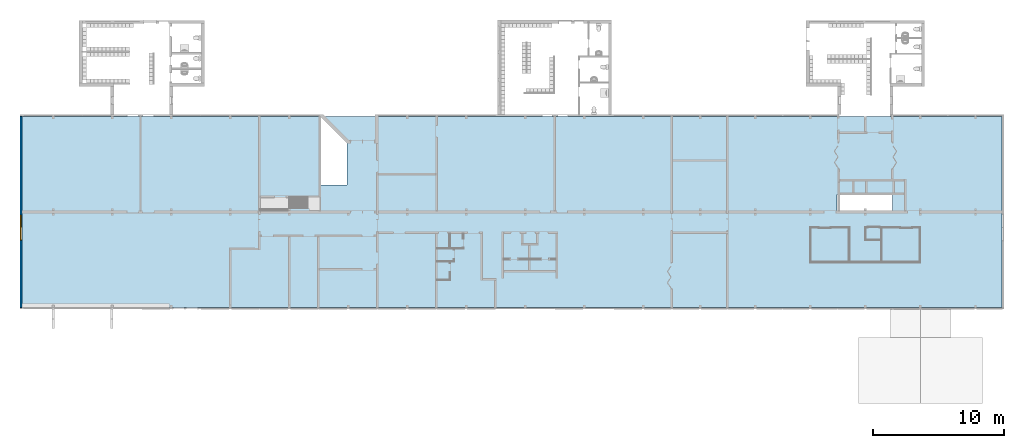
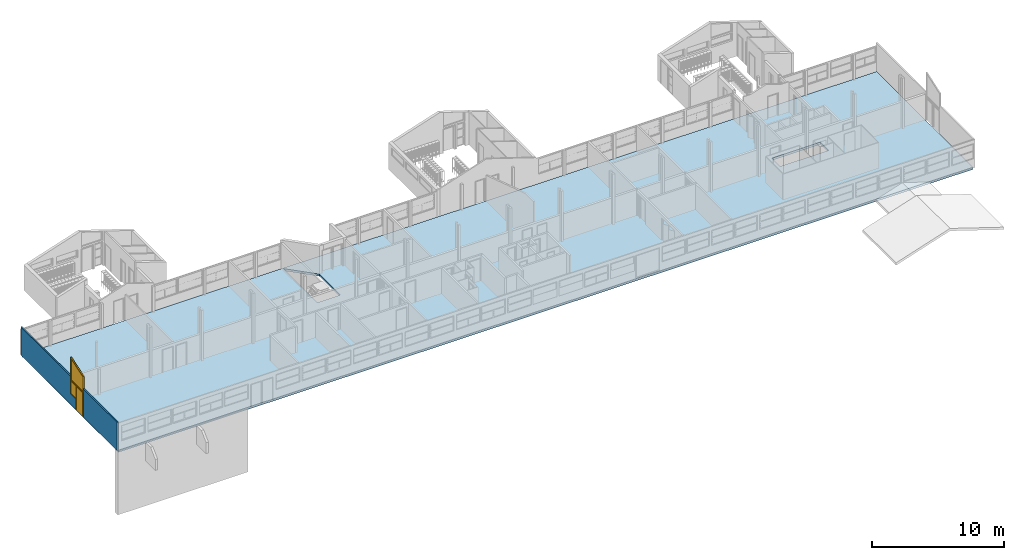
# One storey, part 8 of 48: 2 windows, 1 door, 1 slab, 1 wall, 3 openings.
"""IFC2X3 building model written with IfcOpenShell, lengths in millimetres."""

from ifc_helpers import new_model, entity, si_unit, converted_unit, derived_unit, money_unit, direction, frame, origin_with_axes, place, context, subcontext, project, spatial, open_shell, faceted_brep, surface_model, source, transform, mapped, material, type_object, element, fill, save


model = new_model("IFC2X3")

# Units and contexts
model_context = context("Model", 3, precision=0.01, world=origin_with_axes(), true_north=direction((0.0, 1.0)))
body_context = subcontext(model_context, "Body", "Model", "MODEL_VIEW")
ifc_project = project(units=[si_unit("LENGTHUNIT", "METRE", prefix="MILLI"), si_unit("AREAUNIT", "SQUARE_METRE"), si_unit("VOLUMEUNIT", "CUBIC_METRE"), converted_unit("PLANEANGLEUNIT", "DEGREE", entity("IfcPlaneAngleMeasure", 0.0174532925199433), si_unit("PLANEANGLEUNIT", "RADIAN"), dimensions=[0, 0, 0, 0, 0, 0, 0]), money_unit("USD"), converted_unit("TIMEUNIT", "Year", entity("IfcTimeMeasure", 31557600.0), si_unit("TIMEUNIT", "SECOND"), dimensions=[0, 0, 1, 0, 0, 0, 0]), si_unit("MASSUNIT", "GRAM", prefix="KILO"), si_unit("THERMODYNAMICTEMPERATUREUNIT", "DEGREE_CELSIUS"), si_unit("LUMINOUSINTENSITYUNIT", "LUMEN"), si_unit("ENERGYUNIT", "JOULE", prefix="MEGA"), derived_unit("THERMALCONDUCTANCEUNIT", [(si_unit("POWERUNIT", "WATT"), 1), (si_unit("LENGTHUNIT", "METRE"), -1), (si_unit("THERMODYNAMICTEMPERATUREUNIT", "KELVIN"), -1)]), derived_unit("SPECIFICHEATCAPACITYUNIT", [(si_unit("ENERGYUNIT", "JOULE"), 1), (si_unit("MASSUNIT", "GRAM", prefix="KILO"), -1), (si_unit("THERMODYNAMICTEMPERATUREUNIT", "KELVIN"), -1)]), derived_unit("MASSDENSITYUNIT", [(si_unit("MASSUNIT", "GRAM", prefix="KILO"), 1), (si_unit("VOLUMEUNIT", "CUBIC_METRE"), -1)])], contexts=[model_context])

# Site, building, storey
site_placement = place(None, origin_with_axes())
site = spatial("IfcSite", under=ifc_project, at=site_placement, Name="Site", CompositionType="ELEMENT")
building_placement = place(site_placement, origin_with_axes())
building = spatial("IfcBuilding", under=site, at=building_placement, Name="Building", CompositionType="ELEMENT")
storey_placement = place(building_placement, frame((0.0, 0.0, 3300.0), z_axis=(0.0, 0.0, 1.0), x_axis=(1.0, 0.0, 0.0)))
storey = spatial("IfcBuildingStorey", under=building, at=storey_placement, Name="1 ETG", CompositionType="ELEMENT", Elevation=3300.0)

# Slab
ifc_material_1 = material(Name="Stone - Structural")
slab_type = type_object("IfcSlabType", Name="Stone - Structural 200", PredefinedType="NOTDEFINED")
slab_placement = place(storey_placement, frame((-2400.26057248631, 21800.0005009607, 0.0), z_axis=(0.0, 0.0, 1.0), x_axis=(1.0, 0.0, 0.0)))
element("IfcSlab", 1, at=slab_placement, inside=storey, type_object=slab_type, material=ifc_material_1, Name="SLA - 001", PredefinedType="NOTDEFINED", context=body_context, shape_type="Brep", body=[
    faceted_brep([(0.0, 0.0, 0.0), (0.0, 0.0, -200.0000000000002), (0.0, -14600.12552457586, -200.0000000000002), (0.0, -14600.12552457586, 0.0), (74790.2605724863, 0.0, 0.0), (74790.2605724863, 0.0, -200.0000000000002), (74790.2605724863, -14600.12552457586, -200.0000000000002), (22818.41390390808, -5253.331693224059, -200.0000000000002), (24818.41390390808, -5253.331693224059, -200.0000000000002), (24818.41390390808, -2061.365899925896, -200.0000000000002), (23671.99106851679, -919.4712098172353, -200.0000000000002), (22818.41390390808, -61.36589992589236, -200.0000000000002), (66425.36598292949, -7200.125524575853, -200.0000000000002), (66425.36598292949, -5950.125524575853, -200.0000000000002), (62175.36598292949, -5950.125524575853, -200.0000000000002), (62175.36598292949, -7200.125524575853, -200.0000000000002), (74790.2605724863, -14600.12552457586, 0.0), (24818.41390390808, -5253.331693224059, 0.0), (22818.41390390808, -5253.331693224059, 0.0), (22818.41390390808, -61.36589992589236, 0.0), (23671.99106851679, -919.4712098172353, 0.0), (24818.41390390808, -2061.365899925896, 0.0), (62175.36598292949, -5950.125524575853, 0.0), (66425.36598292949, -5950.125524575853, 0.0), (66425.36598292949, -7200.125524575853, 0.0), (62175.36598292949, -7200.125524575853, 0.0)], [[[0, 1, 2, 3]], [[4, 5, 1, 0]], [[2, 1, 5, 6], [7, 8, 9, 10, 11], [12, 13, 14, 15]], [[3, 2, 6, 16]], [[4, 0, 3, 16], [17, 18, 19, 20, 21], [22, 23, 24, 25]], [[16, 6, 5, 4]], [[17, 8, 7, 18]], [[21, 9, 8, 17]], [[20, 10, 9, 21]], [[19, 11, 10, 20]], [[18, 7, 11, 19]], [[23, 13, 12, 24]], [[22, 14, 13, 23]], [[25, 15, 14, 22]], [[24, 12, 15, 25]]]),
])

# Wall, openings, windows, door
ifc_material_2 = material(Name="GENERIC - STRUCTURAL")
wall_type = type_object("IfcWallType", Name="GENERIC - STRUCTURAL 120", PredefinedType="NOTDEFINED")
wall_placement = place(storey_placement, frame((-2400.26057248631, 21800.0005009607, 0.0), z_axis=(0.0, 0.0, 1.0), x_axis=(0.0, -1.0, 0.0)))
wall = element("IfcWall", 2, at=wall_placement, inside=storey, type_object=wall_type, material=ifc_material_2, Name="SW - 001", context=body_context, shape_type="Brep", body=[
    faceted_brep([(9432.19798324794, 0.0, 0.0), (9432.19798324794, 0.0, 2229.71220870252), (9467.615796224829, 0.0, 2229.71220870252), (9467.615796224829, 0.0, 2600.0), (14600.25802016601, 0.0, 2600.0), (14600.25802016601, 0.0, 0.0), (9432.19798324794, -120.0000000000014, 2229.71220870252), (9432.19798324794, -120.0000000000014, 0.0), (9467.615796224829, -120.0000000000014, 2229.71220870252), (9467.615796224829, -120.000000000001, 2600.0), (14600.25823241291, -120.0000000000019, 2600.0), (14600.25823241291, -120.0000000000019, 0.0)], [[[0, 1, 2, 3, 4, 5]], [[6, 1, 0, 7]], [[1, 6, 8, 2]], [[3, 2, 8, 9]], [[9, 10, 4, 3]], [[10, 11, 5, 4]], [[7, 0, 5, 11]], [[6, 7, 11, 10, 9, 8]]]),
    faceted_brep([(8432.19798324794, -120.000000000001, 965.0187491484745), (8432.19798324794, 0.0, 965.0187491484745), (7532.382365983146, 0.0, 965.0187491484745), (7532.382365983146, -120.000000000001, 965.0187491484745), (8432.19798324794, 0.0, 0.0), (8432.19798324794, -120.000000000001, 0.0), (0.0002003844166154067, 0.0, 0.0), (0.0002003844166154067, 0.0, 2600.0), (7532.382365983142, 0.0, 2600.0), (7532.382365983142, -120.000000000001, 2600.0), (0.0, -119.9999999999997, 2600.0), (0.0, -120.0000000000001, 0.0)], [[[0, 1, 2, 3]], [[4, 1, 0, 5]], [[1, 4, 6, 7, 8, 2]], [[9, 3, 2, 8]], [[5, 0, 3, 9, 10, 11]], [[4, 5, 11, 6]], [[10, 7, 6, 11]], [[8, 7, 10, 9]]]),
])
opening_1_placement = place(wall_placement, frame((7982.290174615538, 0.0, 965.0187491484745), z_axis=(0.0, 0.0, 1.0), x_axis=(1.0, 0.0, 0.0)))
opening_1 = element("IfcOpeningElement", 3, at=opening_1_placement, cuts=wall, Name="WD - 001", context=body_context, shape_type="Brep", body=[
    faceted_brep([(449.9078086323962, 1.000000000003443, 1264.693459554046), (449.9078086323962, 1.000000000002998, 0.0), (-449.9078086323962, 1.000000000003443, 0.0), (-449.9078086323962, 1.000000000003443, 1264.693459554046), (449.9078086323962, -121.0000000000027, 1264.693459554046), (449.9078086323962, -121.0000000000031, 0.0), (-449.9078086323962, -121.0000000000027, 0.0), (-449.9078086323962, -121.0000000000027, 1264.693459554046)], [[[0, 1, 2, 3]], [[4, 5, 1, 0]], [[5, 6, 2, 1]], [[6, 7, 3, 2]], [[7, 4, 0, 3]], [[6, 5, 4, 7]]]),
])
opening_2_placement = place(wall_placement, frame((8499.999081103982, 0.0, 2229.71220870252), z_axis=(0.0, 0.0, 1.0), x_axis=(1.0, 0.0, 0.0)))
opening_2 = element("IfcOpeningElement", 4, at=opening_2_placement, cuts=wall, Name="WD - 001", context=body_context, shape_type="Brep", body=[
    faceted_brep([(967.6167151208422, 1.000000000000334, 1500.0), (967.6167151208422, 1.000000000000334, 0.0), (-967.6167151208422, 1.000000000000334, 0.0), (-967.6167151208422, 1.000000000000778, 2130.718093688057), (967.6167151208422, -121.0, 1500.0), (967.6167151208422, -121.0, 0.0), (-967.6167151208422, -121.0, 0.0), (-967.6167151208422, -120.9999999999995, 2130.718093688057)], [[[0, 1, 2, 3]], [[4, 5, 1, 0]], [[5, 6, 2, 1]], [[6, 7, 3, 2]], [[7, 4, 0, 3]], [[6, 5, 4, 7]]]),
])
opening_3_placement = place(wall_placement, frame((8932.197983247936, 0.0, 0.0), z_axis=(0.0, 0.0, 1.0), x_axis=(1.0, 0.0, 0.0)))
opening_3 = element("IfcOpeningElement", 5, at=opening_3_placement, cuts=wall, Name="DOO - 002", context=body_context, shape_type="Brep", body=[
    faceted_brep([(-500.0, 1.00000000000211, 0.0), (-500.0, 1.00000000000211, 2229.71220870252), (500.0, 1.000000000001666, 2229.71220870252), (500.0, 1.000000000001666, 0.0), (-537.0000000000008, 1.00000000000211, 0.0), (-537.0000000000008, 1.00000000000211, 2266.71220870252), (537.0000000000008, 1.000000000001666, 2266.71220870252), (537.0000000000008, 1.000000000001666, 0.0), (-500.0, 0.0, 0.0), (500.0, 0.0, 0.0), (500.0, -120.0000000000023, 0.0), (500.0, -121.0000000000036, 0.0), (-500.0, -121.0000000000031, 0.0), (-500.0, -120.0000000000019, 0.0), (-537.0000000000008, 0.0, 0.0), (-537.0000000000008, 0.0, 2266.71220870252), (537.0000000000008, 0.0, 2266.71220870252), (537.0000000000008, 0.0, 0.0), (500.0, 0.0, 2229.71220870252), (500.0, -120.0000000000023, 2229.71220870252), (537.0000000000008, -120.0000000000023, 0.0), (537.0000000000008, -121.0000000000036, 0.0), (537.0000000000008, -121.0000000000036, 2266.71220870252), (-537.0000000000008, -121.0000000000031, 2266.71220870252), (-537.0000000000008, -121.0000000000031, 0.0), (-537.0000000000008, -120.0000000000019, 0.0), (-500.0, 0.0, 2229.71220870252), (-500.0, -120.0000000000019, 2229.71220870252), (-537.0000000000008, -120.0000000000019, 2266.71220870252), (537.0000000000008, -120.0000000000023, 2266.71220870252)], [[[0, 1, 2, 3]], [[2, 1, 0, 4, 5, 6, 7, 3]], [[8, 0, 3, 9, 10, 11, 12, 13]], [[0, 8, 14, 4]], [[14, 15, 5, 4]], [[15, 16, 6, 5]], [[16, 17, 7, 6]], [[9, 3, 7, 17]], [[9, 18, 19, 10]], [[11, 10, 20, 21]], [[12, 11, 21, 22, 23, 24]], [[13, 12, 24, 25]], [[26, 8, 13, 27]], [[8, 26, 18, 9, 17, 16, 15, 14]], [[18, 26, 27, 19]], [[19, 27, 13, 25, 28, 29, 20, 10]], [[20, 29, 22, 21]], [[29, 28, 23, 22]], [[28, 25, 24, 23]]]),
])
window_style_1 = type_object("IfcWindowStyle", Name="Vindu med skrå topp", ConstructionType="NOTDEFINED", OperationType="USERDEFINED", ParameterTakesPrecedence=False, Sizeable=False)
shared_shape = source(origin_with_axes(), body_context, "Body", "SurfaceModel", [
    faceted_brep([(-901.6167151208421, -92.00000000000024, 2039.791026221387), (-901.6167151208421, 0.0, 2039.791026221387), (-967.6167151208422, 0.0, 2039.791026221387), (-967.6167151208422, -92.00000000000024, 2039.791026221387), (-901.6167151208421, -92.0, 66.0), (-901.6167151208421, 0.0, 66.0), (-967.6167151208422, 0.0, 66.0), (-967.6167151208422, -92.0, 66.0)], [[[0, 1, 2, 3]], [[4, 5, 1, 0]], [[1, 5, 6, 2]], [[3, 2, 6, 7]], [[0, 3, 7, 4]], [[7, 6, 5, 4]]]),
    faceted_brep([(901.6167151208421, -92.0, 66.0), (901.6167151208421, 0.0, 66.0), (967.6167151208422, 0.0, 66.0), (967.6167151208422, -92.0, 66.0), (901.6167151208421, -92.00000000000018, 1452.093473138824), (901.6167151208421, 0.0, 1452.093473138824), (967.6167151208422, 0.0, 1452.093473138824), (967.6167151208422, -92.00000000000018, 1452.093473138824)], [[[0, 1, 2, 3]], [[4, 5, 1, 0]], [[1, 5, 6, 2]], [[3, 2, 6, 7]], [[0, 3, 7, 4]], [[7, 6, 5, 4]]]),
    faceted_brep([(-967.6167151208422, -92.00000000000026, 2130.718093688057), (-967.6167151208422, 0.0, 2130.718093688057), (-967.6167151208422, 0.0, 2039.791026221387), (-967.6167151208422, -92.00000000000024, 2039.791026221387), (967.6167151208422, -92.00000000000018, 1500.0), (967.6167151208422, 0.0, 1500.0), (967.6167151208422, 0.0, 1452.093473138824), (901.6167151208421, 0.0, 1452.093473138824), (-901.6167151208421, 0.0, 2039.791026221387), (-901.6167151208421, -92.00000000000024, 2039.791026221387), (901.6167151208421, -92.00000000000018, 1452.093473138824), (967.6167151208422, -92.00000000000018, 1452.093473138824)], [[[0, 1, 2, 3]], [[4, 5, 1, 0]], [[1, 5, 6, 7, 8, 2]], [[3, 2, 8, 9]], [[0, 3, 9, 10, 11, 4]], [[11, 6, 5, 4]], [[10, 7, 6, 11]], [[9, 8, 7, 10]]]),
    faceted_brep([(967.6167151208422, -92.0, 0.0), (967.6167151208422, 0.0, 0.0), (967.6167151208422, 0.0, 66.0), (967.6167151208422, -92.0, 66.0), (-967.6167151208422, -92.0, 0.0), (-967.6167151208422, 0.0, 0.0), (-967.6167151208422, 0.0, 66.0), (-901.6167151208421, 0.0, 66.0), (901.6167151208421, 0.0, 66.0), (901.6167151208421, -92.0, 66.0), (-901.6167151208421, -92.0, 66.0), (-967.6167151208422, -92.0, 66.0)], [[[0, 1, 2, 3]], [[4, 5, 1, 0]], [[1, 5, 6, 7, 8, 2]], [[3, 2, 8, 9]], [[0, 3, 9, 10, 11, 4]], [[11, 6, 5, 4]], [[10, 7, 6, 11]], [[9, 8, 7, 10]]]),
    surface_model("IfcShellBasedSurfaceModel", [(-901.6167151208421, -56.0, 66.0), (901.6167151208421, -56.0, 66.0), (901.6167151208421, -56.00000000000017, 1452.093473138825), (-901.6167151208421, -56.00000000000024, 2039.791026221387)], [open_shell([[[0, 1, 2, 3]]])]),
    surface_model("IfcShellBasedSurfaceModel", [(-901.6167151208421, -36.00000000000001, 66.0), (-901.6167151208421, -36.00000000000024, 2039.791026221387), (901.6167151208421, -36.00000000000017, 1452.093473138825), (901.6167151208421, -36.00000000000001, 66.0)], [open_shell([[[0, 1, 2, 3]]])]),
])
window_1_placement = place(opening_2_placement, frame((-967.6167151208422, 0.0, 0.0), z_axis=(0.0, 0.0, 1.0), x_axis=(1.0, 0.0, 0.0)))
window_1 = element("IfcWindow", 6, at=window_1_placement, inside=storey, type_object=window_style_1, Name="WD - 001", ObjectType="WINDOW", OverallHeight=2130.72, OverallWidth=1935.23, context=body_context, shape_type="MappedRepresentation", body=[
    mapped(shared_shape, transform((967.6167151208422, -28.0000000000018, 0.0))),
])
fill(opening_2, window_1)
window_style_2 = type_object("IfcWindowStyle", Name="Vindu variabelt", ConstructionType="NOTDEFINED", OperationType="SINGLE_PANEL", ParameterTakesPrecedence=False, Sizeable=False)
window_2_placement = place(opening_1_placement, frame((449.9078086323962, 0.0, 0.0), z_axis=(0.0, 0.0, 1.0), x_axis=(-1.0, 0.0, 0.0)))
window_2 = element("IfcWindow", 7, at=window_2_placement, inside=storey, type_object=window_style_2, Name="WD - 001", ObjectType="WINDOW", OverallHeight=1264.69, OverallWidth=899.816, context=body_context, shape_type="SurfaceModel", body=[
    faceted_brep([(833.8156172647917, 70.00000000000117, 1198.693459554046), (899.8156172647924, 70.00000000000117, 1198.693459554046), (899.8156172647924, 120.000000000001, 1198.693459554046), (833.8156172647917, 120.000000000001, 1198.693459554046), (833.8156172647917, 70.00000000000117, 65.99999999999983), (899.8156172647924, 70.00000000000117, 65.99999999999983), (899.8156172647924, 120.0000000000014, 65.99999999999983), (833.8156172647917, 120.0000000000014, 65.99999999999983)], [[[0, 1, 2, 3]], [[0, 4, 5, 1]], [[1, 5, 6, 2]], [[3, 2, 6, 7]], [[4, 0, 3, 7]], [[5, 4, 7, 6]]]),
    faceted_brep([(66.00000000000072, 70.00000000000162, 65.99999999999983), (0.0, 70.00000000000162, 65.99999999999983), (0.0, 120.0000000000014, 65.99999999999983), (66.00000000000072, 120.0000000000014, 65.99999999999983), (66.00000000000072, 70.00000000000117, 1198.693459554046), (0.0, 70.00000000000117, 1198.693459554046), (0.0, 120.0000000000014, 1198.693459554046), (66.00000000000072, 120.0000000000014, 1198.693459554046)], [[[0, 1, 2, 3]], [[0, 4, 5, 1]], [[1, 5, 6, 2]], [[3, 2, 6, 7]], [[4, 0, 3, 7]], [[5, 4, 7, 6]]]),
    faceted_brep([(833.8156172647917, 70.00000000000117, 65.99999999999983), (899.8156172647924, 70.00000000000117, 65.99999999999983), (899.8156172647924, 120.0000000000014, 65.99999999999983), (833.8156172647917, 120.0000000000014, 65.99999999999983), (66.00000000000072, 70.00000000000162, 65.99999999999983), (0.0, 70.00000000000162, 65.99999999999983), (0.0, 70.00000000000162, 0.0), (899.8156172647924, 70.00000000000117, 0.0), (899.8156172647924, 120.0000000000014, 0.0), (0.0, 120.0000000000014, 0.0), (0.0, 120.0000000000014, 65.99999999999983), (66.00000000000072, 120.0000000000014, 65.99999999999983)], [[[0, 1, 2, 3]], [[0, 4, 5, 6, 7, 1]], [[1, 7, 8, 2]], [[3, 2, 8, 9, 10, 11]], [[4, 0, 3, 11]], [[5, 4, 11, 10]], [[6, 5, 10, 9]], [[7, 6, 9, 8]]]),
    faceted_brep([(66.00000000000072, 70.00000000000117, 1198.693459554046), (0.0, 70.00000000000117, 1198.693459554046), (0.0, 120.0000000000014, 1198.693459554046), (66.00000000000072, 120.0000000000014, 1198.693459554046), (833.8156172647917, 70.00000000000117, 1198.693459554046), (899.8156172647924, 70.00000000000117, 1198.693459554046), (899.8156172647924, 70.00000000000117, 1264.693459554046), (0.0, 70.00000000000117, 1264.693459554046), (0.0, 120.0000000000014, 1264.693459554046), (899.8156172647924, 120.000000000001, 1264.693459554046), (899.8156172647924, 120.000000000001, 1198.693459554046), (833.8156172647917, 120.000000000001, 1198.693459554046)], [[[0, 1, 2, 3]], [[0, 4, 5, 6, 7, 1]], [[1, 7, 8, 2]], [[3, 2, 8, 9, 10, 11]], [[4, 0, 3, 11]], [[5, 4, 11, 10]], [[6, 5, 10, 9]], [[7, 6, 9, 8]]]),
    surface_model("IfcShellBasedSurfaceModel", [(833.8156172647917, 85.0000000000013, 65.99999999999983), (833.8156172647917, 85.0000000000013, 1198.693459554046), (66.00000000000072, 85.0000000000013, 1198.693459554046), (66.00000000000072, 85.00000000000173, 65.99999999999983)], [open_shell([[[0, 1, 2, 3]]])]),
    surface_model("IfcShellBasedSurfaceModel", [(833.8156172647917, 105.0000000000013, 65.99999999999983), (66.00000000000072, 105.0000000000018, 65.99999999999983), (66.00000000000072, 105.0000000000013, 1198.693459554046), (833.8156172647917, 105.0000000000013, 1198.693459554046)], [open_shell([[[0, 1, 2, 3]]])]),
])
fill(opening_1, window_2)
door_style = type_object("IfcDoorStyle", Name="Dør", ConstructionType="NOTDEFINED", OperationType="SINGLE_SWING_LEFT", ParameterTakesPrecedence=False, Sizeable=False)
door_placement = place(opening_3_placement, frame((500.0, 0.0, 0.0), z_axis=(0.0, 0.0, 1.0), x_axis=(-1.0, 0.0, 0.0)))
door = element("IfcDoor", 8, at=door_placement, inside=storey, type_object=door_style, Name="DOO - 002", ObjectType="DOOR", OverallHeight=2229.71, OverallWidth=1000.0, context=body_context, shape_type="Brep", body=[
    faceted_brep([(1000.0, 115.000000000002, 0.0), (974.9999999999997, 115.000000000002, 0.0), (974.9999999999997, 120.0000000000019, 0.0), (1000.0, 120.0000000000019, 0.0), (1000.0, 115.000000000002, 2229.71220870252), (974.9999999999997, 115.000000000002, 2204.71220870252), (974.9999999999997, 120.0000000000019, 2204.71220870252), (1000.0, 120.0000000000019, 2229.71220870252)], [[[0, 1, 2, 3]], [[0, 4, 5, 1]], [[1, 5, 6, 2]], [[3, 2, 6, 7]], [[4, 0, 3, 7]], [[5, 4, 7, 6]]]),
    faceted_brep([(0.0, 115.0000000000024, 2229.71220870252), (25.00000000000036, 115.0000000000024, 2204.71220870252), (25.00000000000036, 120.0000000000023, 2204.71220870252), (0.0, 120.0000000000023, 2229.71220870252), (0.0, 115.000000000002, 0.0), (25.00000000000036, 115.000000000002, 0.0), (25.00000000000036, 120.0000000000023, 0.0), (0.0, 120.0000000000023, 0.0)], [[[0, 1, 2, 3]], [[0, 4, 5, 1]], [[1, 5, 6, 2]], [[3, 2, 6, 7]], [[4, 0, 3, 7]], [[5, 4, 7, 6]]]),
    faceted_brep([(974.9999999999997, 115.000000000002, 2204.71220870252), (25.00000000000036, 115.0000000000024, 2204.71220870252), (25.00000000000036, 120.0000000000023, 2204.71220870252), (974.9999999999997, 120.0000000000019, 2204.71220870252), (1000.0, 115.000000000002, 2229.71220870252), (0.0, 115.0000000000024, 2229.71220870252), (0.0, 120.0000000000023, 2229.71220870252), (1000.0, 120.0000000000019, 2229.71220870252)], [[[0, 1, 2, 3]], [[0, 4, 5, 1]], [[1, 5, 6, 2]], [[3, 2, 6, 7]], [[4, 0, 3, 7]], [[5, 4, 7, 6]]]),
    faceted_brep([(1037.000000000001, 139.000000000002, 0.0), (1037.000000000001, 120.0000000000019, 0.0), (987.0000000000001, 120.0000000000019, 0.0), (987.0000000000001, 139.000000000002, 0.0), (1037.000000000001, 139.000000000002, 2266.71220870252), (1037.000000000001, 120.0000000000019, 2266.71220870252), (987.0000000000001, 120.0000000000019, 2216.71220870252), (987.0000000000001, 139.000000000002, 2216.71220870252)], [[[0, 1, 2, 3]], [[4, 5, 1, 0]], [[1, 5, 6, 2]], [[3, 2, 6, 7]], [[0, 3, 7, 4]], [[7, 6, 5, 4]]]),
    faceted_brep([(-37.00000000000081, 139.0000000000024, 2266.71220870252), (-37.00000000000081, 120.0000000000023, 2266.71220870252), (12.9999999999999, 120.0000000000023, 2216.71220870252), (12.9999999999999, 139.0000000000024, 2216.71220870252), (-37.00000000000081, 139.000000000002, 0.0), (-37.00000000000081, 120.0000000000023, 0.0), (12.9999999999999, 120.0000000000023, 0.0), (12.9999999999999, 139.000000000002, 0.0)], [[[0, 1, 2, 3]], [[4, 5, 1, 0]], [[1, 5, 6, 2]], [[3, 2, 6, 7]], [[0, 3, 7, 4]], [[7, 6, 5, 4]]]),
    faceted_brep([(1037.000000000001, 139.000000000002, 2266.71220870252), (1037.000000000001, 120.0000000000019, 2266.71220870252), (987.0000000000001, 120.0000000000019, 2216.71220870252), (987.0000000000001, 139.000000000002, 2216.71220870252), (-37.00000000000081, 139.0000000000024, 2266.71220870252), (-37.00000000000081, 120.0000000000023, 2266.71220870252), (12.9999999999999, 120.0000000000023, 2216.71220870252), (12.9999999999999, 139.0000000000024, 2216.71220870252)], [[[0, 1, 2, 3]], [[4, 5, 1, 0]], [[1, 5, 6, 2]], [[3, 2, 6, 7]], [[0, 3, 7, 4]], [[7, 6, 5, 4]]]),
    faceted_brep([(1037.000000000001, -18.99999999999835, 0.0), (987.0000000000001, -18.99999999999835, 0.0), (987.0000000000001, 0.0, 0.0), (1037.000000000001, 0.0, 0.0), (1037.000000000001, -18.99999999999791, 2266.71220870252), (987.0000000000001, -18.99999999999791, 2216.71220870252), (987.0000000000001, 0.0, 2216.71220870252), (1037.000000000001, 0.0, 2266.71220870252)], [[[0, 1, 2, 3]], [[0, 4, 5, 1]], [[1, 5, 6, 2]], [[3, 2, 6, 7]], [[4, 0, 3, 7]], [[5, 4, 7, 6]]]),
    faceted_brep([(-37.00000000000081, -18.99999999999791, 2266.71220870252), (12.9999999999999, -18.99999999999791, 2216.71220870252), (12.9999999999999, 0.0, 2216.71220870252), (-37.00000000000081, 0.0, 2266.71220870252), (-37.00000000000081, -18.99999999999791, 0.0), (12.9999999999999, -18.99999999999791, 0.0), (12.9999999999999, 0.0, 0.0), (-37.00000000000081, 0.0, 0.0)], [[[0, 1, 2, 3]], [[0, 4, 5, 1]], [[1, 5, 6, 2]], [[3, 2, 6, 7]], [[4, 0, 3, 7]], [[5, 4, 7, 6]]]),
    faceted_brep([(1037.000000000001, -18.99999999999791, 2266.71220870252), (987.0000000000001, -18.99999999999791, 2216.71220870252), (987.0000000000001, 0.0, 2216.71220870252), (1037.000000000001, 0.0, 2266.71220870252), (-37.00000000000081, -18.99999999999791, 2266.71220870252), (12.9999999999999, -18.99999999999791, 2216.71220870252), (12.9999999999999, 0.0, 2216.71220870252), (-37.00000000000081, 0.0, 2266.71220870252)], [[[0, 1, 2, 3]], [[0, 4, 5, 1]], [[1, 5, 6, 2]], [[3, 2, 6, 7]], [[4, 0, 3, 7]], [[5, 4, 7, 6]]]),
    faceted_brep([(1000.0, 115.000000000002, 0.0), (1000.0, 0.0, 0.0), (960.0000000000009, 0.0, 0.0), (960.0000000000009, 115.000000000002, 0.0), (1000.0, 115.0000000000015, 2189.71220870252), (1000.0, 0.0, 2189.71220870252), (960.0000000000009, 0.0, 2189.71220870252), (960.0000000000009, 115.0000000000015, 2189.71220870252)], [[[0, 1, 2, 3]], [[4, 5, 1, 0]], [[1, 5, 6, 2]], [[3, 2, 6, 7]], [[0, 3, 7, 4]], [[7, 6, 5, 4]]]),
    faceted_brep([(0.0, 115.000000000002, 0.0), (0.0, 0.0, 0.0), (0.0, 0.0, 2189.71220870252), (0.0, 115.000000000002, 2189.71220870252), (39.99999999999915, 115.000000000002, 0.0), (39.99999999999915, 0.0, 0.0), (39.99999999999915, 0.0, 2189.71220870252), (39.99999999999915, 115.000000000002, 2189.71220870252)], [[[0, 1, 2, 3]], [[4, 5, 1, 0]], [[1, 5, 6, 2]], [[3, 2, 6, 7]], [[0, 3, 7, 4]], [[7, 6, 5, 4]]]),
    faceted_brep([(1000.0, 115.0000000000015, 2229.71220870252), (1000.0, 0.0, 2229.71220870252), (1000.0, 0.0, 2189.71220870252), (1000.0, 115.0000000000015, 2189.71220870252), (0.0, 115.000000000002, 2229.71220870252), (0.0, 0.0, 2229.71220870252), (0.0, 0.0, 2189.71220870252), (39.99999999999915, 0.0, 2189.71220870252), (960.0000000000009, 0.0, 2189.71220870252), (960.0000000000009, 115.0000000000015, 2189.71220870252), (39.99999999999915, 115.000000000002, 2189.71220870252), (0.0, 115.000000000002, 2189.71220870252)], [[[0, 1, 2, 3]], [[4, 5, 1, 0]], [[1, 5, 6, 7, 8, 2]], [[3, 2, 8, 9]], [[0, 3, 9, 10, 11, 4]], [[11, 6, 5, 4]], [[10, 7, 6, 11]], [[9, 8, 7, 10]]]),
    faceted_brep([(40.00000000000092, 115.000000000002, 0.0), (960.0000000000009, 115.000000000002, 0.0), (960.0000000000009, 75.00000000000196, 0.0), (40.00000000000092, 75.00000000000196, 0.0), (40.00000000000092, 115.000000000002, 2189.71220870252), (960.0000000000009, 115.0000000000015, 2189.71220870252), (960.0000000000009, 75.0000000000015, 2189.71220870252), (40.00000000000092, 75.00000000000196, 2189.71220870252)], [[[0, 1, 2, 3]], [[0, 4, 5, 1]], [[1, 5, 6, 2]], [[3, 2, 6, 7]], [[4, 0, 3, 7]], [[5, 4, 7, 6]]]),
])
fill(opening_3, door)

save(model, "model.ifc")
